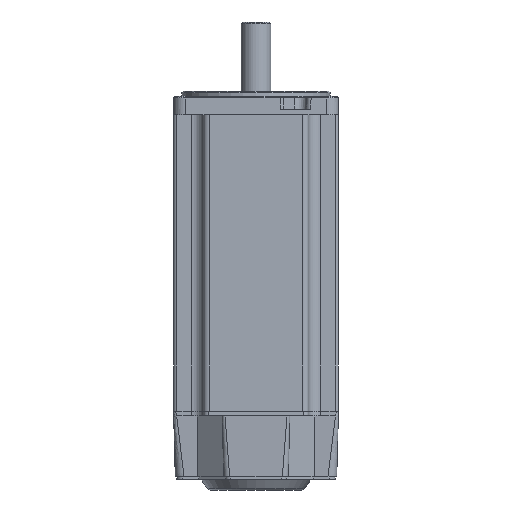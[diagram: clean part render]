
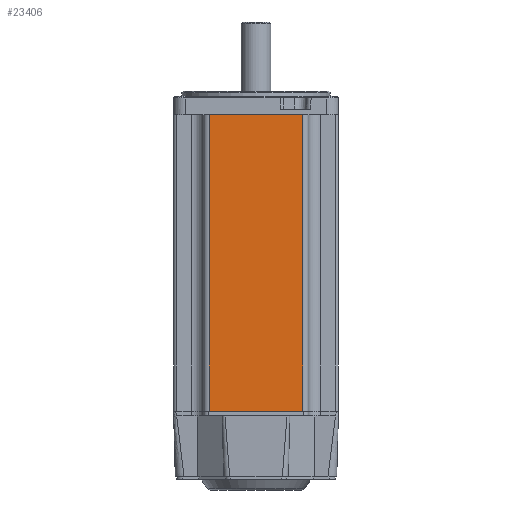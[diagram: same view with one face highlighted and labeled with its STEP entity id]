
A CAD part, front view. The second image highlights one B-rep face of the part: STEP entity #23406.
In plain terms, the highlighted planar face has unit normal (0, -1, 0).
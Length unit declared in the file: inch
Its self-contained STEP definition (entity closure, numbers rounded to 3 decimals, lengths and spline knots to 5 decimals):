
#21517=CARTESIAN_POINT('',(0.995,-1.75,-6.3));
#21518=VERTEX_POINT('',#21517);
#21525=CARTESIAN_POINT('',(-0.995,-1.75,-6.3));
#21526=VERTEX_POINT('',#21525);
#21527=CARTESIAN_POINT('',(-0.995,-1.75,-6.3));
#21528=DIRECTION('',(1.0,0.0,0.0));
#21529=VECTOR('',#21528,1.99);
#21530=LINE('',#21527,#21529);
#21531=EDGE_CURVE('',#21526,#21518,#21530,.T.);
#23364=CARTESIAN_POINT('',(-0.995,-1.75,0.0));
#23365=VERTEX_POINT('',#23364);
#23366=CARTESIAN_POINT('',(-0.995,-1.75,-6.3));
#23367=DIRECTION('',(0.0,0.0,1.0));
#23368=VECTOR('',#23367,6.3);
#23369=LINE('',#23366,#23368);
#23370=EDGE_CURVE('',#21526,#23365,#23369,.T.);
#23383=CARTESIAN_POINT('',(1.5,-1.75,0.0));
#23384=DIRECTION('',(0.0,-1.0,0.0));
#23385=DIRECTION('',(0.0,0.0,-1.0));
#23386=AXIS2_PLACEMENT_3D('',#23383,#23384,#23385);
#23387=PLANE('',#23386);
#23388=ORIENTED_EDGE('',*,*,#21531,.T.);
#23389=CARTESIAN_POINT('',(0.995,-1.75,0.0));
#23390=VERTEX_POINT('',#23389);
#23391=CARTESIAN_POINT('',(0.995,-1.75,0.0));
#23392=DIRECTION('',(0.0,0.0,-1.0));
#23393=VECTOR('',#23392,6.3);
#23394=LINE('',#23391,#23393);
#23395=EDGE_CURVE('',#23390,#21518,#23394,.T.);
#23396=ORIENTED_EDGE('',*,*,#23395,.F.);
#23397=CARTESIAN_POINT('',(-0.995,-1.75,0.0));
#23398=DIRECTION('',(1.0,0.0,0.0));
#23399=VECTOR('',#23398,1.99);
#23400=LINE('',#23397,#23399);
#23401=EDGE_CURVE('',#23365,#23390,#23400,.T.);
#23402=ORIENTED_EDGE('',*,*,#23401,.F.);
#23403=ORIENTED_EDGE('',*,*,#23370,.F.);
#23404=EDGE_LOOP('',(#23388,#23396,#23402,#23403));
#23405=FACE_OUTER_BOUND('',#23404,.T.);
#23406=ADVANCED_FACE('',(#23405),#23387,.T.);
